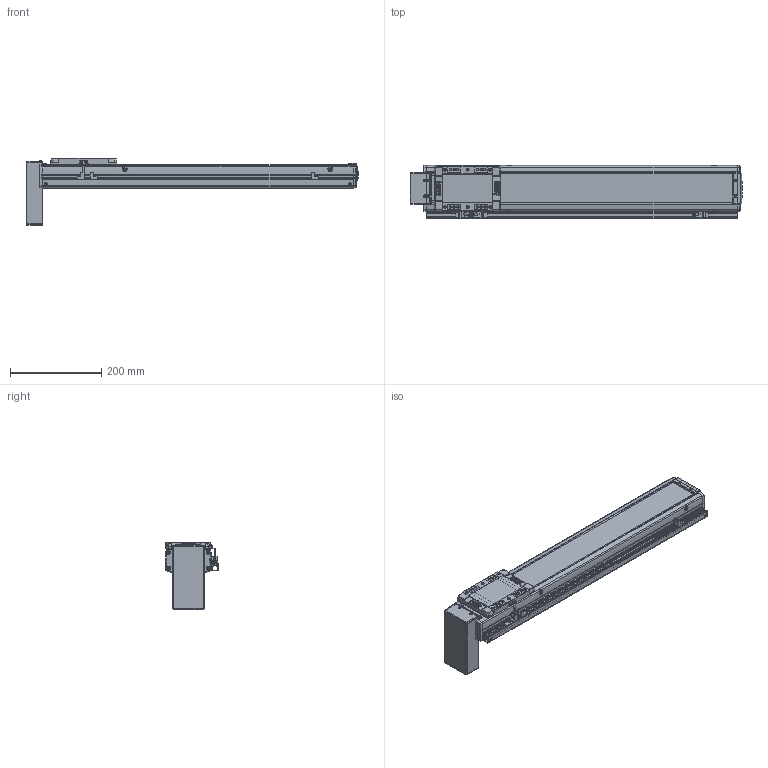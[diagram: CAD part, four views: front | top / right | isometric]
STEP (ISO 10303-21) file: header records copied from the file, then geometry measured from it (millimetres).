
FILE_DESCRIPTION(('STEP AP214'),'1');
FILE_NAME('Z:/Web/3D/SAN100/SAN100 양산용 (STEP)/SAN100ㅁㅁ-500PB+3SR.stp','2013-04-26T02:22:20',(' '),(' '),'Spatial InterOp 3D',' ',' ');
FILE_SCHEMA(('automotive_design'));
Length unit declared in the file: millimetre
Products named in the file (55): SUS COVER; SFX-SAN100; RRCV-SAN100; 스크루 : Round - M4.0 x 10.0; M3.0 x 6.0; 스크루 : Round - M3.0 x 6.0; FRBL-SAN100; SLBL-SAN100; SLCV-SAN100; 스크루 : Countersunk - M3.0 x 6.0; BASE; 스크루 : Round - M5.0 x 6.0; BTCV-SAN100; FRCV-SAN100; EE-SX674; SBK-SX674-352; SRL-16x17-380L; SGD-SAN100
Bounding box: 726.5 x 116 x 148.36 mm (x, y, z)
Volume: 2323449.9 mm3; surface area: 606582.6 mm2
Topology: 55 solids, 58 shells, 2537 faces, 6582 edges, 4261 vertices
Faces by surface type: plane 1366, cylinder 843, cone 214, sphere 72, torus 30, bspline 12
Entity records: 99642 total; most frequent: CARTESIAN_POINT 14581, DIRECTION 13927, ORIENTED_EDGE 12992, EDGE_CURVE 6496, AXIS2_PLACEMENT_3D 4948, VERTEX_POINT 4261, LINE 4031, VECTOR 4031
